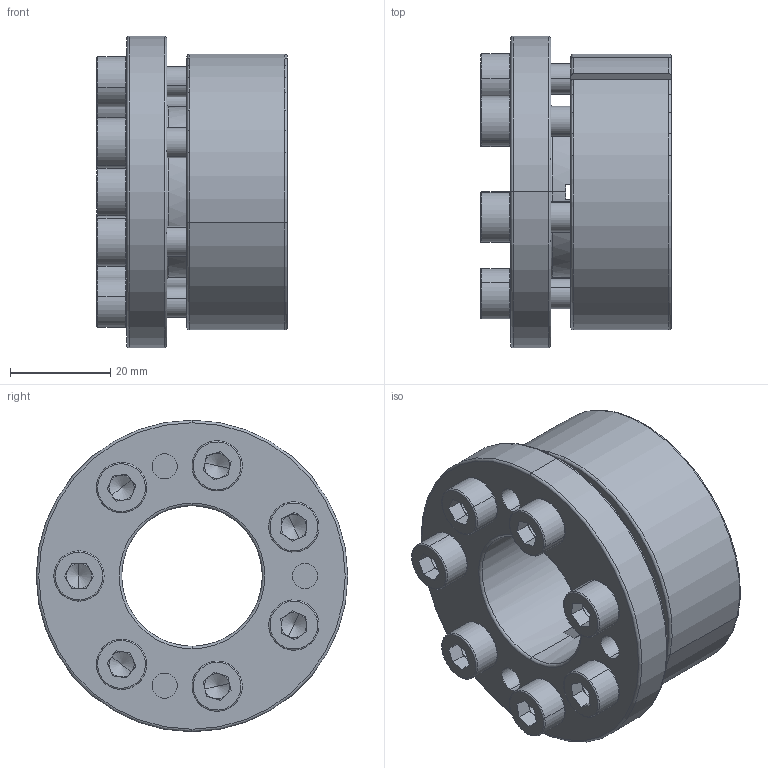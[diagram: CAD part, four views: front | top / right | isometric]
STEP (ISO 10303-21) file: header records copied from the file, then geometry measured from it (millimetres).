
FILE_DESCRIPTION (( 'STEP AP203' ), '1' );
FILE_NAME ('SAPL-B-28-55.STEP', '2013-07-23T02:52:31', ( 'MYCOM' ), ( '' ), 'SwSTEP 2.0', 'SolidWorks 2012', '' );
FILE_SCHEMA (( 'CONFIG_CONTROL_DESIGN' ));
Length unit declared in the file: millimetre
Products named in the file (1): SAPL-B-28-55
Bounding box: 38 x 62 x 62 mm (x, y, z)
Volume: 55760.6 mm3; surface area: 22078.9 mm2
Topology: 1 solids, 1 shells, 306 faces, 713 edges, 419 vertices
Faces by surface type: plane 119, cylinder 85, torus 69, cone 33
Entity records: 8815 total; most frequent: DIRECTION 1648, CARTESIAN_POINT 1571, ORIENTED_EDGE 1398, EDGE_CURVE 699, AXIS2_PLACEMENT_3D 672, VERTEX_POINT 419, CIRCLE 365, EDGE_LOOP 356
